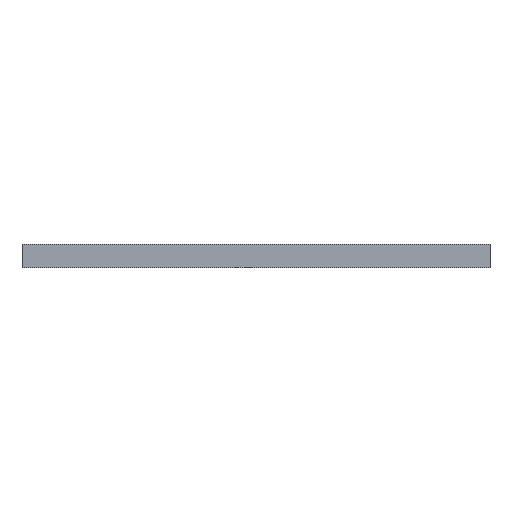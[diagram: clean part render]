
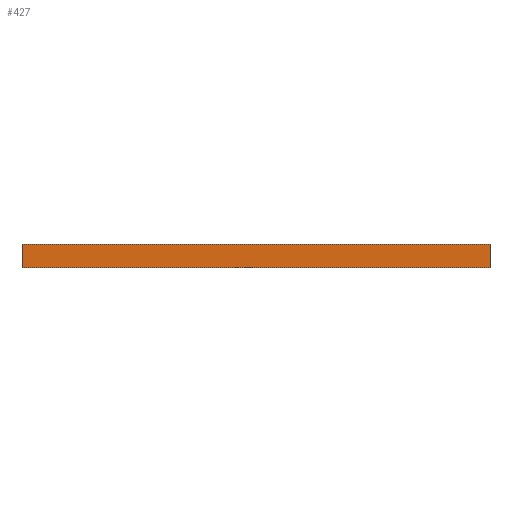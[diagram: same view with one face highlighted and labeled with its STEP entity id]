
A CAD part, left-side view. The second image highlights one B-rep face of the part: STEP entity #427.
In plain terms, the highlighted planar face has unit normal (-1, 0, 0).
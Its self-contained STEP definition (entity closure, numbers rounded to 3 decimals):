
#118 = VERTEX_POINT ( 'NONE', #1446 ) ;
#139 = VERTEX_POINT ( 'NONE', #1466 ) ;
#144 = VERTEX_POINT ( 'NONE', #1457 ) ;
#155 = VERTEX_POINT ( 'NONE', #1459 ) ;
#188 = EDGE_LOOP ( 'NONE', ( #883, #877, #829, #857 ) ) ;
#285 = FACE_OUTER_BOUND ( 'NONE', #188, .T. ) ;
#427 = ADVANCED_FACE ( 'NONE', ( #285 ), #1534, .F. ) ;
#484 = LINE ( 'NONE', #1739, #519 ) ;
#519 = VECTOR ( 'NONE', #1745, 1000. ) ;
#606 = VECTOR ( 'NONE', #1846, 1000. ) ;
#609 = LINE ( 'NONE', #1862, #631 ) ;
#620 = LINE ( 'NONE', #1851, #606 ) ;
#631 = VECTOR ( 'NONE', #1839, 1000. ) ;
#698 = LINE ( 'NONE', #1970, #711 ) ;
#711 = VECTOR ( 'NONE', #1972, 1000. ) ;
#829 = ORIENTED_EDGE ( 'NONE', *, *, #1110, .F. ) ;
#857 = ORIENTED_EDGE ( 'NONE', *, *, #1166, .T. ) ;
#877 = ORIENTED_EDGE ( 'NONE', *, *, #1062, .F. ) ;
#883 = ORIENTED_EDGE ( 'NONE', *, *, #1114, .T. ) ;
#1062 = EDGE_CURVE ( 'NONE', #139, #155, #484, .T. ) ;
#1110 = EDGE_CURVE ( 'NONE', #144, #139, #609, .T. ) ;
#1114 = EDGE_CURVE ( 'NONE', #118, #155, #620, .T. ) ;
#1166 = EDGE_CURVE ( 'NONE', #144, #118, #698, .T. ) ;
#1215 = AXIS2_PLACEMENT_3D ( 'NONE', #1532, #1562, #1560 ) ;
#1446 = CARTESIAN_POINT ( 'NONE',  ( -20., 20., 0. ) ) ;
#1457 = CARTESIAN_POINT ( 'NONE',  ( -20., 20., 2. ) ) ;
#1459 = CARTESIAN_POINT ( 'NONE',  ( -20., -20., 0. ) ) ;
#1466 = CARTESIAN_POINT ( 'NONE',  ( -20., -20., 2. ) ) ;
#1532 = CARTESIAN_POINT ( 'NONE',  ( -20., 20., 2. ) ) ;
#1534 = PLANE ( 'NONE',  #1215 ) ;
#1560 = DIRECTION ( 'NONE',  ( 0., 1., 0. ) ) ;
#1562 = DIRECTION ( 'NONE',  ( 1., 0., 0. ) ) ;
#1739 = CARTESIAN_POINT ( 'NONE',  ( -20., -20., 2. ) ) ;
#1745 = DIRECTION ( 'NONE',  ( 0., 0., -1. ) ) ;
#1839 = DIRECTION ( 'NONE',  ( 0., -1., 0. ) ) ;
#1846 = DIRECTION ( 'NONE',  ( 0., -1., 0. ) ) ;
#1851 = CARTESIAN_POINT ( 'NONE',  ( -20., 20., 0. ) ) ;
#1862 = CARTESIAN_POINT ( 'NONE',  ( -20., 20., 2. ) ) ;
#1970 = CARTESIAN_POINT ( 'NONE',  ( -20., 20., 2. ) ) ;
#1972 = DIRECTION ( 'NONE',  ( 0., 0., -1. ) ) ;
